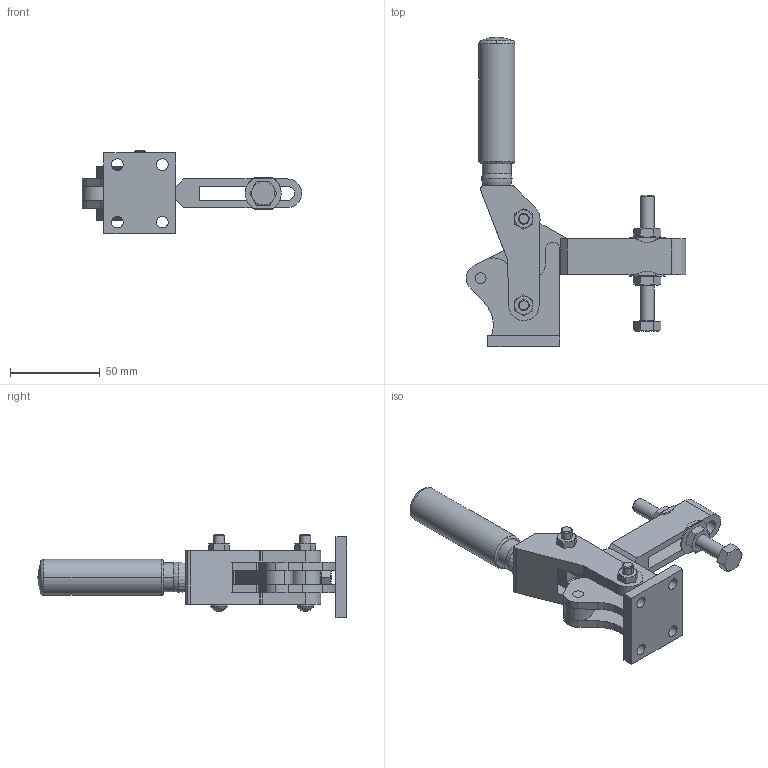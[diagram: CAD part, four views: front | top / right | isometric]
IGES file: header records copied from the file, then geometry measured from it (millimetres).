
Start section:  Level              Description ========  ================================        1  SANDFIELD
Global section: file name: D:/WORK/SANDFIELD/sandfield_3d/Vertical_Action/HEAVY_DUTY/M18/M18UB.IGS; native system: AutoCAD-13_c4a_Mh (HwLock) (Microsoft Windows NT Version 4.0 (x86)); preprocessor: AutoCAD IGES Translator R13.1c2 (Jan 23 1997) from Autodesk, Inc.; author: ProCAD; organization: Sandfield Eng Co.; date: 990520.143212; units: millimetre
Bounding box: 122 x 172 x 46.5 mm (x, y, z)
Volume: 124324 mm3; surface area: 54043.8 mm2
Topology: 18 solids, 18 shells, 338 faces, 833 edges, 531 vertices
Faces by surface type: plane 114, cylinder 112, bspline 86, cone 14, sphere 8, torus 4
